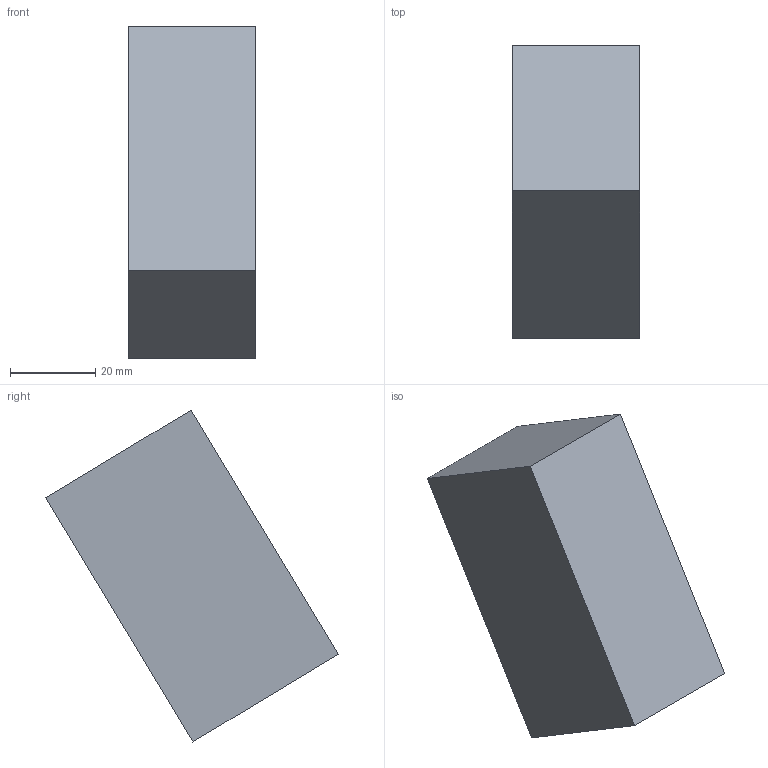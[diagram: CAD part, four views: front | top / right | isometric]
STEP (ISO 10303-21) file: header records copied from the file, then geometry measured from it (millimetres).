
FILE_DESCRIPTION(('Open CASCADE Model'),'2;1');
FILE_NAME('Open CASCADE Shape Model','2026-09-19T12:55:26',('Author'),( 'Open CASCADE'),'Open CASCADE STEP processor 7.9','Open CASCADE 7.9' ,'Unknown');
FILE_SCHEMA(('AUTOMOTIVE_DESIGN { 1 0 10303 214 1 1 1 1 }'));
Length unit declared in the file: millimetre
Products named in the file (1): Open CASCADE STEP translator 7.9 491
Bounding box: 30 x 68.87 x 78.03 mm (x, y, z)
Volume: 80400 mm3; surface area: 11780 mm2
Topology: 1 solids, 1 shells, 6 faces, 12 edges, 8 vertices
Faces by surface type: plane 6
Entity records: 322 total; most frequent: CARTESIAN_POINT 51, DIRECTION 50, LINE 36, VECTOR 36, ORIENTED_EDGE 24, PCURVE 24, DEFINITIONAL_REPRESENTATION 24, EDGE_CURVE 12
